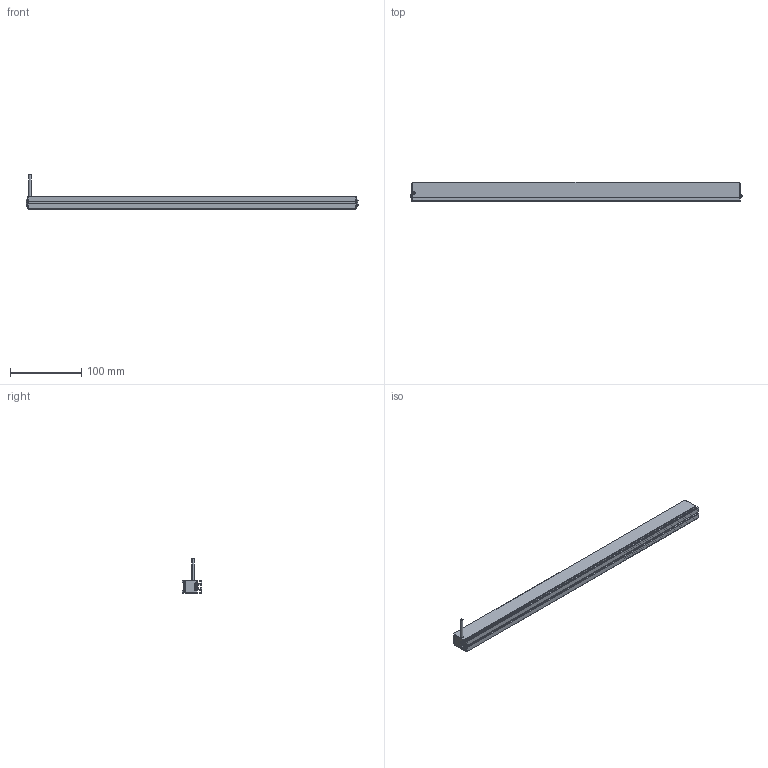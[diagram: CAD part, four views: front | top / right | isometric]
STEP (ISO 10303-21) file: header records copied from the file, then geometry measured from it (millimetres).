
FILE_DESCRIPTION((''),'2;1');
FILE_NAME('MV-LLDS-462-18_ASM','2020-12-30T',('Administrator'),(''),'PRO/ENGINEER BY PARAMETRIC TECHNOLOGY CORPORATION, 2010100','PRO/ENGINEER BY PARAMETRIC TECHNOLOGY CORPORATION, 2010100','');
FILE_SCHEMA(('CONFIG_CONTROL_DESIGN'));
Length unit declared in the file: millimetre
Products named in the file (3): BL_2_-_2_; M3-5_3; MV-LLDS-462-18_ASM
Assembly tree (5 placements, depth 2):
  MV-LLDS-462-18_ASM
    BL_2_-_2_
    M3-5_3  x4
Bounding box: 466.68 x 27 x 48 mm (x, y, z)
Volume: 183800.5 mm3; surface area: 82200.4 mm2
Topology: 5 solids, 13 shells, 327 faces, 872 edges, 560 vertices
Faces by surface type: plane 213, cylinder 66, cone 16, bspline 16, torus 8, sphere 8
Entity records: 7485 total; most frequent: CARTESIAN_POINT 1567, ORIENTED_EDGE 1214, DIRECTION 1184, EDGE_CURVE 617, VECTOR 472, LINE 472, VERTEX_POINT 401, AXIS2_PLACEMENT_3D 356
